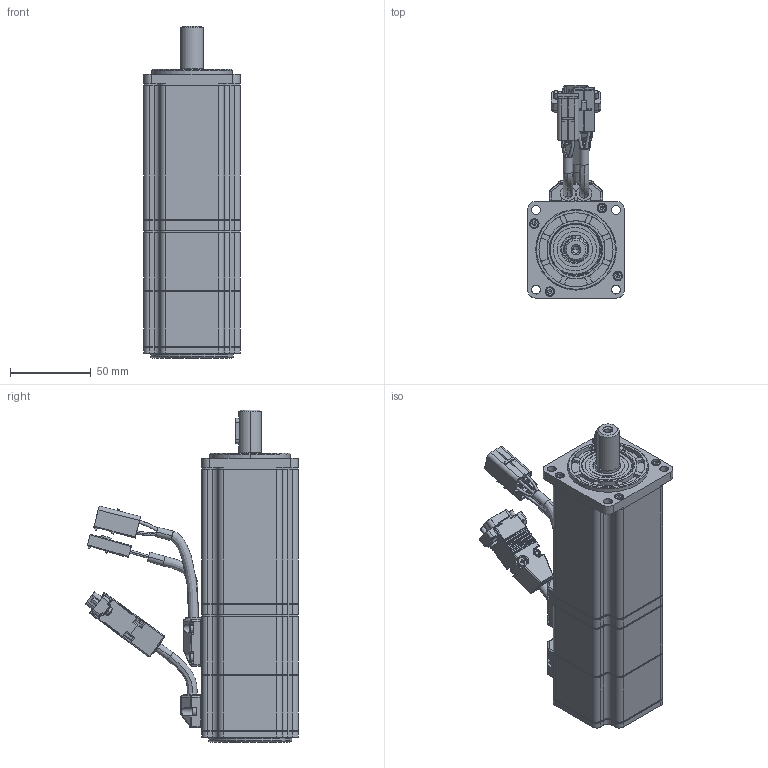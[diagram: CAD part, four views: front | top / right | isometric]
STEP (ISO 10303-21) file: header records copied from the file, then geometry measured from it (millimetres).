
FILE_DESCRIPTION (( 'STEP AP203' ), '1' );
FILE_NAME ('淕儂蚾饜.STEP', '2019-11-01T09:32:49', ( 'admin' ), ( '' ), 'SwSTEP 2.0', 'SolidWorks 2016', '' );
FILE_SCHEMA (( 'CONFIG_CONTROL_DESIGN' ));
Length unit declared in the file: millimetre
Products named in the file (1): 淕儂蚾饜
Bounding box: 60 x 132.21 x 206.2 mm (x, y, z)
Volume: 226601.1 mm3; surface area: 163213.2 mm2
Topology: 53 solids, 53 shells, 2997 faces, 7970 edges, 4952 vertices
Faces by surface type: cylinder 1324, plane 1077, cone 165, torus 155, sphere 144, bspline 132
Entity records: 98142 total; most frequent: CARTESIAN_POINT 24783, DIRECTION 15678, ORIENTED_EDGE 15268, EDGE_CURVE 7634, AXIS2_PLACEMENT_3D 5955, VERTEX_POINT 4846, LINE 3768, VECTOR 3768
